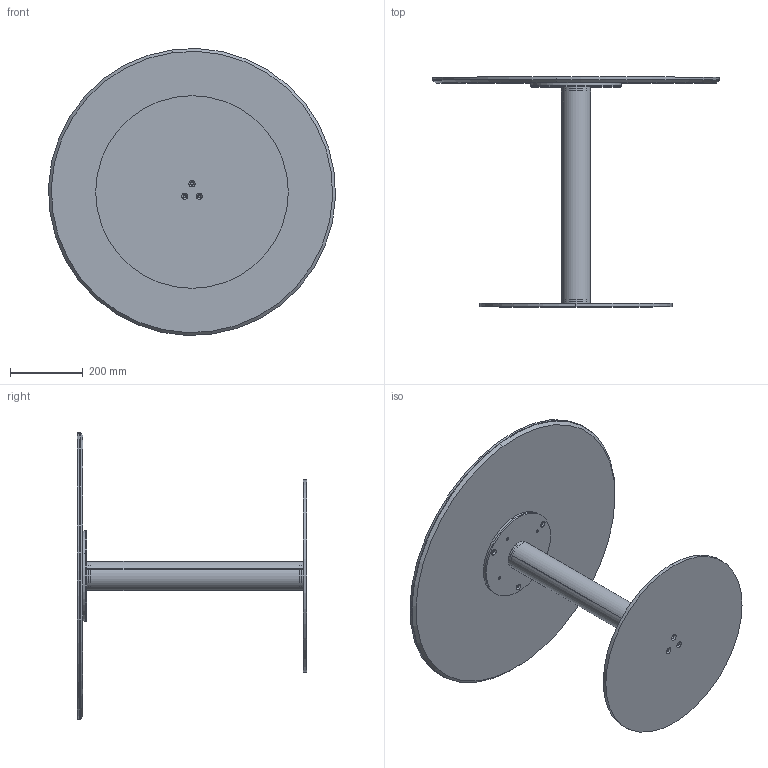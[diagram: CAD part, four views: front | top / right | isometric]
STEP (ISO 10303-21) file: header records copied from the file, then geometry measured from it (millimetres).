
FILE_DESCRIPTION (( 'STEP AP203' ), '1' );
FILE_NAME ('CB17C.STEP', '2024-08-08T08:40:46', ( '' ), ( '' ), 'SwSTEP 2.0', 'SolidWorks 2022', '' );
FILE_SCHEMA (( 'CONFIG_CONTROL_DESIGN' ));
Length unit declared in the file: millimetre
Products named in the file (9): CBS000000BAS-00-BISTRO PIASTRA INFERIORE_D.530; CBS200000PST-00-CONTROPIASTRA PER PIASTRA D.25cm GREZZO_250; CBS000001COL_02-00-CILINDRO BISTRO PIASTRA M8; CBS000001COL-00-CILINDRO BISTRO COLONNA H63; CBS000001COL_01-00-CILINDRO BISTRO TUBO H63; P0000003-00-STAFFA DI FISSAGGIO DIAMETRO 250_P0000003-250mm normale; KXXCXX-00-Piani Rotondi in ceramica CON PIASTRA_K12P PIANO CERAMICA D.79cm; K1XCMXX-00-Piani Rotondi in ceramica_D.790; CB17C
Assembly tree (9 placements, depth 3):
  CB17C
    CBS000001COL-00-CILINDRO BISTRO COLONNA H63
      CBS000001COL_01-00-CILINDRO BISTRO TUBO H63
      CBS000001COL_02-00-CILINDRO BISTRO PIASTRA M8  x2
    CBS000000BAS-00-BISTRO PIASTRA INFERIORE_D.530
    CBS200000PST-00-CONTROPIASTRA PER PIASTRA D.25cm GREZZO_250
    KXXCXX-00-Piani Rotondi in ceramica CON PIASTRA_K12P PIANO CERAMICA D.79cm
      K1XCMXX-00-Piani Rotondi in ceramica_D.790
      P0000003-00-STAFFA DI FISSAGGIO DIAMETRO 250_P0000003-250mm normale
Bounding box: 789.44 x 632 x 789.44 mm (x, y, z)
Volume: 10836500.6 mm3; surface area: 2965185.9 mm2
Topology: 8 solids, 8 shells, 110 faces, 254 edges, 160 vertices
Faces by surface type: cylinder 66, cone 28, plane 16
Entity records: 3959 total; most frequent: DIRECTION 602, CARTESIAN_POINT 488, ORIENTED_EDGE 460, AXIS2_PLACEMENT_3D 258, EDGE_CURVE 230, VERTEX_POINT 144, EDGE_LOOP 144, CIRCLE 144
